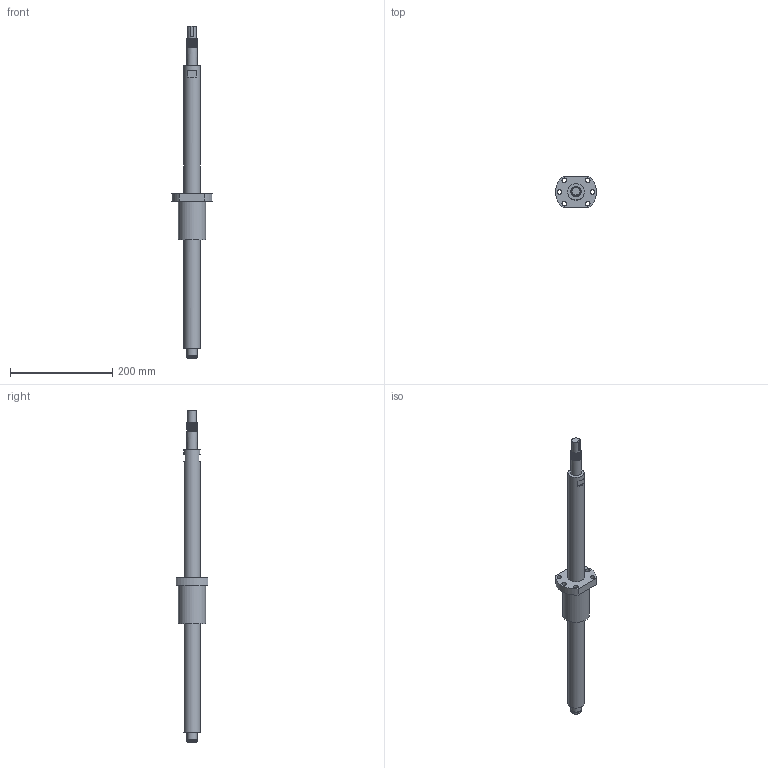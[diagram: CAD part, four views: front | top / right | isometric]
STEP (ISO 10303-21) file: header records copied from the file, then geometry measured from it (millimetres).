
FILE_DESCRIPTION(/* description */ (''),/* implementation_level */ '2;1');
FILE_NAME(/* name */ 'BSG432_asm1.stp',/* time_stamp */ '2017-01-12T15:49:35+08:00',/* author */ (''),/* organization */ (''),/* preprocessor_version */ 'ST-DEVELOPER v15',/* originating_system */ 'SIEMENS PLM Software NX 8.5',/* authorisation */ '');
FILE_SCHEMA (('AUTOMOTIVE_DESIGN { 1 0 10303 214 3 1 1 1 }'));
Length unit declared in the file: millimetre
Products named in the file (3): 01; BSG432; BSG432_asm1
Assembly tree (2 placements, depth 2):
  BSG432_asm1
    BSG432
    01
Bounding box: 79.74 x 62 x 650 mm (x, y, z)
Volume: 624702.4 mm3; surface area: 97959.4 mm2
Topology: 2 solids, 2 shells, 51 faces, 123 edges, 84 vertices
Faces by surface type: cylinder 24, plane 23, bspline 2, cone 2
Full cylindrical faces by diameter (mm): 9 x6, 17 x1, 19 x1, 20 x8, 32 x2, 53 x1
Entity records: 2679 total; most frequent: CARTESIAN_POINT 1653, DIRECTION 202, ORIENTED_EDGE 162, AXIS2_PLACEMENT_3D 87, EDGE_LOOP 82, EDGE_CURVE 81, VERTEX_POINT 63, FACE_BOUND 60
